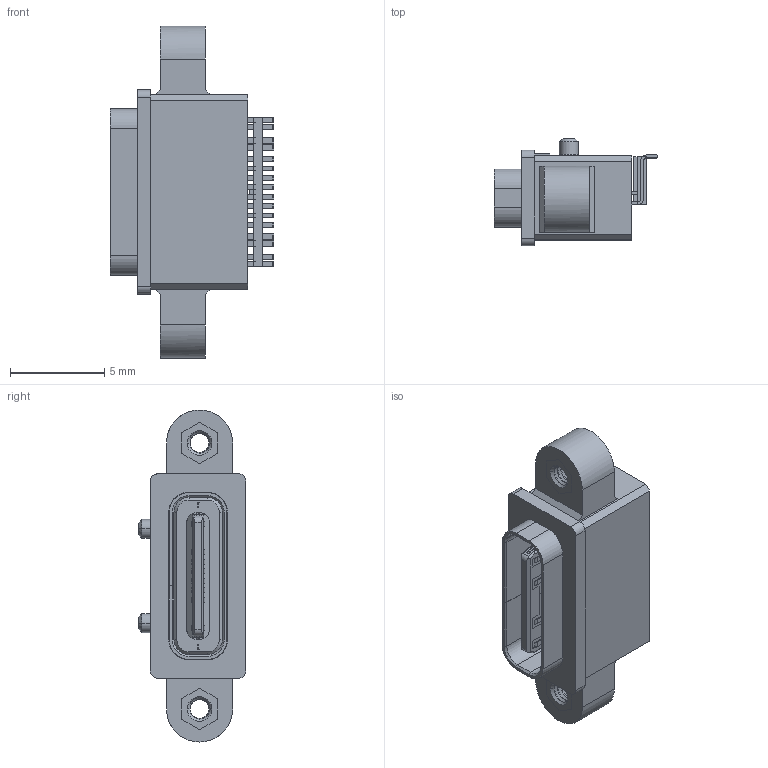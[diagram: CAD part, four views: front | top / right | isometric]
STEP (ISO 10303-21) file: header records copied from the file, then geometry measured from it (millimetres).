
FILE_DESCRIPTION (( 'STEP AP203' ), '1' );
FILE_NAME ('217B-BB10_C_2.STEP', '2025-04-22T02:21:55', ( '' ), ( '' ), 'SwSTEP 2.0', 'SolidWorks 2012', '' );
FILE_SCHEMA (( 'CONFIG_CONTROL_DESIGN' ));
Length unit declared in the file: millimetre
Products named in the file (32): PRT0071; PRT0074; PRT0072; PRT0073; ASM0010; PRT0070; ASM0009; PRT0066; PRT0069; PRT0067; PRT0068; PRT0064; PRT0063; PRT0062; PRT0065; PRT0060_1; ASM0007; PRT0061; PRT0056; PRT0060; PRT0057; PRT0058; PRT0076; PRT0075; PRT0077; PRT0078; 217B-BB10_C_2; PRT0081; ASM0012; ASM0013; PRT0080; PRT0079
Assembly tree (31 placements, depth 4):
  217B-BB10_C_2
    PRT0056
    ASM0007
      PRT0057
      PRT0058
      PRT0060
      PRT0060_1
    PRT0061
    ASM0009
      ASM0010
        PRT0062
        PRT0063
        PRT0064
        PRT0065
        PRT0066
        PRT0067
        PRT0068
        PRT0069
      PRT0070
    PRT0071
    ASM0012
      PRT0072
      PRT0073
      PRT0074
      PRT0075
      PRT0076
      PRT0077
      PRT0078
      PRT0079
    ASM0013
      PRT0080
      PRT0081
Bounding box: 8.67 x 5.71 x 17.6 mm (x, y, z)
Volume: 319.2 mm3; surface area: 1541.7 mm2
Topology: 54 solids, 54 shells, 1943 faces, 5513 edges, 3630 vertices
Faces by surface type: plane 1397, cylinder 492, cone 46, bspline 8
Entity records: 77699 total; most frequent: CARTESIAN_POINT 23194, ORIENTED_EDGE 11026, DIRECTION 10092, EDGE_CURVE 5513, VECTOR 4362, LINE 4362, VERTEX_POINT 3630, AXIS2_PLACEMENT_3D 2865
